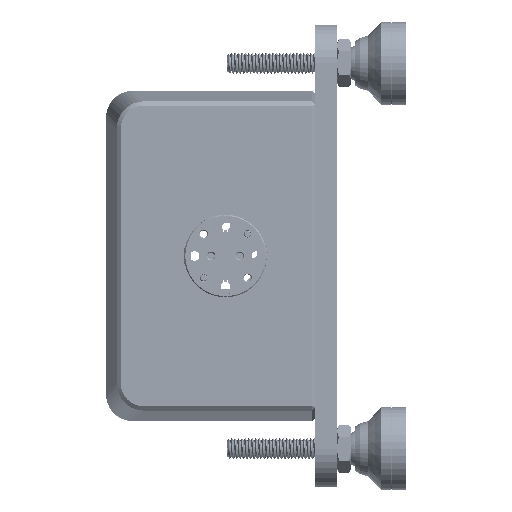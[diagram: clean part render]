
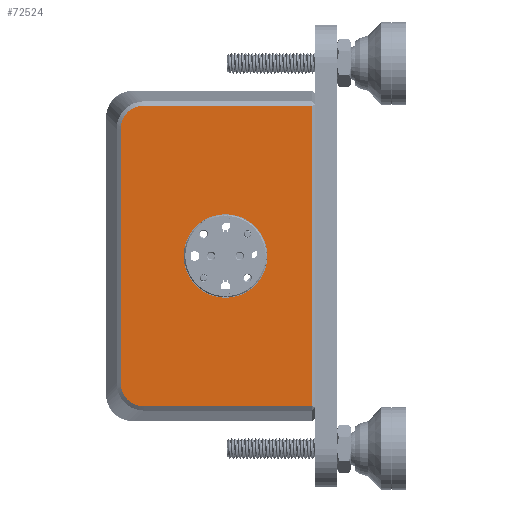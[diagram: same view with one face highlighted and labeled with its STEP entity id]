
A CAD part, left-side view. The second image highlights one B-rep face of the part: STEP entity #72524.
In plain terms, the highlighted planar face has unit normal (-1, 0, 0).
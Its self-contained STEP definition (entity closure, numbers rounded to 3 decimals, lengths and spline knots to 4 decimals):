
#2170 = CARTESIAN_POINT ( 'NONE',  ( -4.25, -7.4729, 0. ) ) ;
#3152 = CARTESIAN_POINT ( 'NONE',  ( -4.25, -6.6578, -1.1836 ) ) ;
#6938 = DIRECTION ( 'NONE',  ( 0., 0., -1. ) ) ;
#13927 = CARTESIAN_POINT ( 'NONE',  ( -4.25, -6.6578, 1.1837 ) ) ;
#14855 = VECTOR ( 'NONE', #223952, 39.3701 ) ;
#15906 = CIRCLE ( 'NONE', #76168, 0.38 ) ;
#20655 = CARTESIAN_POINT ( 'NONE',  ( -4.25, -6.6632, -1.2111 ) ) ;
#21821 = VERTEX_POINT ( 'NONE', #286880 ) ;
#24948 = CARTESIAN_POINT ( 'NONE',  ( -4.25, -6.8667, -1.3651 ) ) ;
#25517 = DIRECTION ( 'NONE',  ( 0., 1., 0. ) ) ;
#29384 = EDGE_CURVE ( 'NONE', #199831, #72122, #131469, .T. ) ;
#33803 = DIRECTION ( 'NONE',  ( -1., 0., 0. ) ) ;
#34966 = EDGE_CURVE ( 'NONE', #72122, #198308, #140398, .T. ) ;
#43399 = LINE ( 'NONE', #243536, #142813 ) ;
#44527 = VERTEX_POINT ( 'NONE', #225399 ) ;
#45551 = CARTESIAN_POINT ( 'NONE',  ( -4.25, -7.4729, -1.3651 ) ) ;
#47695 = ORIENTED_EDGE ( 'NONE', *, *, #29384, .T. ) ;
#51141 = VERTEX_POINT ( 'NONE', #167630 ) ;
#53159 = CARTESIAN_POINT ( 'NONE',  ( -4.25, -6.6578, 1.1562 ) ) ;
#53387 = VERTEX_POINT ( 'NONE', #105693 ) ;
#53994 = DIRECTION ( 'NONE',  ( 0., 0., 1. ) ) ;
#54587 = CARTESIAN_POINT ( 'NONE',  ( -4.25, -6.6632, 1.2111 ) ) ;
#54825 = VERTEX_POINT ( 'NONE', #271881 ) ;
#63550 = VECTOR ( 'NONE', #25517, 39.3701 ) ;
#71324 = EDGE_CURVE ( 'NONE', #53387, #54825, #231646, .T. ) ;
#72122 = VERTEX_POINT ( 'NONE', #141684 ) ;
#72524 = ADVANCED_FACE ( 'NONE', ( #137060, #112443 ), #225523, .F. ) ;
#76168 = AXIS2_PLACEMENT_3D ( 'NONE', #248436, #185993, #53994 ) ;
#86531 = EDGE_LOOP ( 'NONE', ( #156445, #173712 ) ) ;
#87954 = CARTESIAN_POINT ( 'NONE',  ( -4.25, -7.4729, 1.3651 ) ) ;
#93559 = DIRECTION ( 'NONE',  ( 0., 0., -1. ) ) ;
#98443 = EDGE_CURVE ( 'NONE', #51141, #21821, #222504, .T. ) ;
#99106 = DIRECTION ( 'NONE',  ( 0., 0., 1. ) ) ;
#100129 = EDGE_CURVE ( 'NONE', #198308, #51141, #252736, .T. ) ;
#101515 = ORIENTED_EDGE ( 'NONE', *, *, #279226, .T. ) ;
#105693 = CARTESIAN_POINT ( 'NONE',  ( -4.25, -7.6079, 0.38 ) ) ;
#112443 = FACE_OUTER_BOUND ( 'NONE', #182232, .T. ) ;
#125152 = CARTESIAN_POINT ( 'NONE',  ( -4.25, -6.6578, -1.1562 ) ) ;
#131469 = B_SPLINE_CURVE_WITH_KNOTS ( 'NONE', 3,
 ( #250469, #251906, #272212, #212628, #189443, #211217, #140230, #54587, #13927, #53159 ),
 .UNSPECIFIED., .F., .F.,
 ( 4, 2, 2, 2, 4 ),
 ( 0., 0.25, 0.5, 0.75, 1. ),
 .UNSPECIFIED. ) ;
#134346 = ORIENTED_EDGE ( 'NONE', *, *, #34966, .T. ) ;
#135194 = CARTESIAN_POINT ( 'NONE',  ( -4.25, -6.684, -1.2616 ) ) ;
#137060 = FACE_BOUND ( 'NONE', #86531, .T. ) ;
#138275 = VECTOR ( 'NONE', #6938, 39.3701 ) ;
#140230 = CARTESIAN_POINT ( 'NONE',  ( -4.25, -6.684, 1.2616 ) ) ;
#140398 = LINE ( 'NONE', #276661, #138275 ) ;
#141684 = CARTESIAN_POINT ( 'NONE',  ( -4.25, -6.6578, 1.1562 ) ) ;
#142813 = VECTOR ( 'NONE', #287081, 39.3701 ) ;
#152660 = CARTESIAN_POINT ( 'NONE',  ( -4.25, -6.8392, -1.3651 ) ) ;
#154660 = LINE ( 'NONE', #87954, #63550 ) ;
#156445 = ORIENTED_EDGE ( 'NONE', *, *, #71324, .F. ) ;
#166882 = ORIENTED_EDGE ( 'NONE', *, *, #100129, .T. ) ;
#167630 = CARTESIAN_POINT ( 'NONE',  ( -4.25, -6.8667, -1.3651 ) ) ;
#170165 = EDGE_CURVE ( 'NONE', #21821, #44527, #43399, .T. ) ;
#173712 = ORIENTED_EDGE ( 'NONE', *, *, #273200, .F. ) ;
#177251 = CARTESIAN_POINT ( 'NONE',  ( -4.25, -6.6995, -1.2849 ) ) ;
#182232 = EDGE_LOOP ( 'NONE', ( #166882, #204362, #237049, #101515, #47695, #134346 ) ) ;
#185993 = DIRECTION ( 'NONE',  ( -1., 0., 0. ) ) ;
#189321 = AXIS2_PLACEMENT_3D ( 'NONE', #2170, #267621, #93559 ) ;
#189443 = CARTESIAN_POINT ( 'NONE',  ( -4.25, -6.738, 1.3234 ) ) ;
#198308 = VERTEX_POINT ( 'NONE', #125152 ) ;
#199831 = VERTEX_POINT ( 'NONE', #205204 ) ;
#203896 = AXIS2_PLACEMENT_3D ( 'NONE', #209316, #33803, #99106 ) ;
#204362 = ORIENTED_EDGE ( 'NONE', *, *, #98443, .T. ) ;
#205204 = CARTESIAN_POINT ( 'NONE',  ( -4.25, -6.8667, 1.3651 ) ) ;
#209316 = CARTESIAN_POINT ( 'NONE',  ( -4.25, -7.6079, 0. ) ) ;
#211217 = CARTESIAN_POINT ( 'NONE',  ( -4.25, -6.6995, 1.2849 ) ) ;
#212628 = CARTESIAN_POINT ( 'NONE',  ( -4.25, -6.7612, 1.3388 ) ) ;
#222504 = LINE ( 'NONE', #45551, #14855 ) ;
#223653 = CARTESIAN_POINT ( 'NONE',  ( -4.25, -6.738, -1.3234 ) ) ;
#223952 = DIRECTION ( 'NONE',  ( 0., -1., 0. ) ) ;
#225399 = CARTESIAN_POINT ( 'NONE',  ( -4.25, -8.3929, 1.3651 ) ) ;
#225523 = PLANE ( 'NONE',  #189321 ) ;
#231646 = CIRCLE ( 'NONE', #203896, 0.38 ) ;
#237049 = ORIENTED_EDGE ( 'NONE', *, *, #170165, .T. ) ;
#241119 = CARTESIAN_POINT ( 'NONE',  ( -4.25, -6.7612, -1.3388 ) ) ;
#243536 = CARTESIAN_POINT ( 'NONE',  ( -4.25, -8.3929, 0. ) ) ;
#245416 = CARTESIAN_POINT ( 'NONE',  ( -4.25, -6.6578, -1.1562 ) ) ;
#248436 = CARTESIAN_POINT ( 'NONE',  ( -4.25, -7.6079, 0. ) ) ;
#250469 = CARTESIAN_POINT ( 'NONE',  ( -4.25, -6.8667, 1.3651 ) ) ;
#251906 = CARTESIAN_POINT ( 'NONE',  ( -4.25, -6.8392, 1.3651 ) ) ;
#252736 = B_SPLINE_CURVE_WITH_KNOTS ( 'NONE', 3,
 ( #245416, #3152, #20655, #135194, #177251, #223653, #241119, #268608, #152660, #24948 ),
 .UNSPECIFIED., .F., .F.,
 ( 4, 2, 2, 2, 4 ),
 ( 0., 0.25, 0.5, 0.75, 1. ),
 .UNSPECIFIED. ) ;
#267621 = DIRECTION ( 'NONE',  ( 1., 0., 0. ) ) ;
#268608 = CARTESIAN_POINT ( 'NONE',  ( -4.25, -6.8117, -1.3596 ) ) ;
#271881 = CARTESIAN_POINT ( 'NONE',  ( -4.25, -7.6079, -0.38 ) ) ;
#272212 = CARTESIAN_POINT ( 'NONE',  ( -4.25, -6.8117, 1.3596 ) ) ;
#273200 = EDGE_CURVE ( 'NONE', #54825, #53387, #15906, .T. ) ;
#276661 = CARTESIAN_POINT ( 'NONE',  ( -4.25, -6.6578, 0. ) ) ;
#279226 = EDGE_CURVE ( 'NONE', #44527, #199831, #154660, .T. ) ;
#286880 = CARTESIAN_POINT ( 'NONE',  ( -4.25, -8.3929, -1.3651 ) ) ;
#287081 = DIRECTION ( 'NONE',  ( 0., 0., 1. ) ) ;
